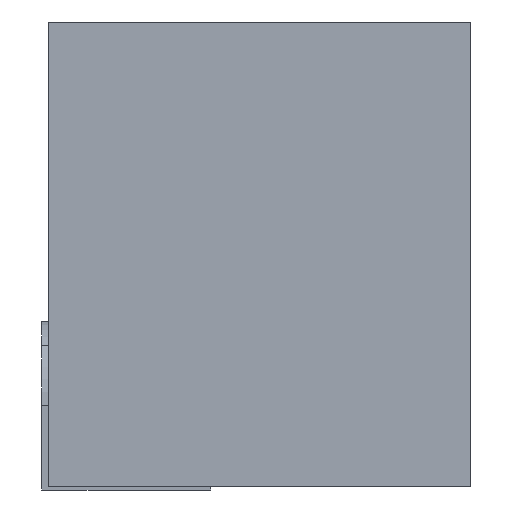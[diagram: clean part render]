
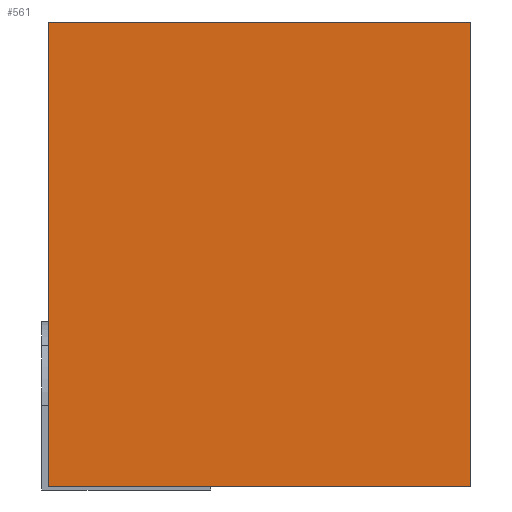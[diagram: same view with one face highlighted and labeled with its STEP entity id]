
A CAD part, left-side view. The second image highlights one B-rep face of the part: STEP entity #561.
In plain terms, the highlighted planar face has unit normal (-1, 0, 0).
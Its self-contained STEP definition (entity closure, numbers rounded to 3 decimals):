
#317=EDGE_CURVE('',#661,#373,#813,.T.);
#373=VERTEX_POINT('',#877);
#427=VERTEX_POINT('',#936);
#463=EDGE_CURVE('',#427,#523,#977,.T.);
#523=VERTEX_POINT('',#1044);
#561=ADVANCED_FACE('',(#1090),#1091,.T.);
#581=EDGE_CURVE('',#523,#373,#1113,.T.);
#603=EDGE_CURVE('',#427,#661,#1138,.T.);
#661=VERTEX_POINT('',#1201);
#813=LINE('',#1375,#1376);
#877=CARTESIAN_POINT('',(0.,15.0,5.5));
#936=CARTESIAN_POINT('',(0.,10.0,0.));
#977=LINE('',#1602,#1603);
#1044=CARTESIAN_POINT('',(0.,15.0,0.));
#1090=FACE_OUTER_BOUND('',#1755,.T.);
#1091=PLANE('',#1756);
#1113=LINE('',#1793,#1794);
#1138=LINE('',#1825,#1826);
#1201=CARTESIAN_POINT('',(0.,10.0,5.5));
#1375=CARTESIAN_POINT('',(0.,10.0,5.5));
#1376=VECTOR('',#2161,1.0);
#1602=CARTESIAN_POINT('',(0.,10.0,0.));
#1603=VECTOR('',#2293,1.0);
#1755=EDGE_LOOP('',(#2419,#2420,#2421,#2422));
#1756=AXIS2_PLACEMENT_3D('',#2423,#2424,#2425);
#1793=CARTESIAN_POINT('',(0.,15.0,0.));
#1794=VECTOR('',#2446,0.235);
#1825=CARTESIAN_POINT('',(0.,10.0,0.));
#1826=VECTOR('',#2477,0.235);
#2161=DIRECTION('',(0.,1.0,0.));
#2293=DIRECTION('',(0.,1.0,0.));
#2419=ORIENTED_EDGE('',*,*,#317,.T.);
#2420=ORIENTED_EDGE('',*,*,#581,.F.);
#2421=ORIENTED_EDGE('',*,*,#463,.F.);
#2422=ORIENTED_EDGE('',*,*,#603,.T.);
#2423=CARTESIAN_POINT('',(0.,10.0,0.));
#2424=DIRECTION('',(-1.0,0.0,0.));
#2425=DIRECTION('',(0.,0.0,1.0));
#2446=DIRECTION('',(0.,0.,1.0));
#2477=DIRECTION('',(0.,0.,1.0));
